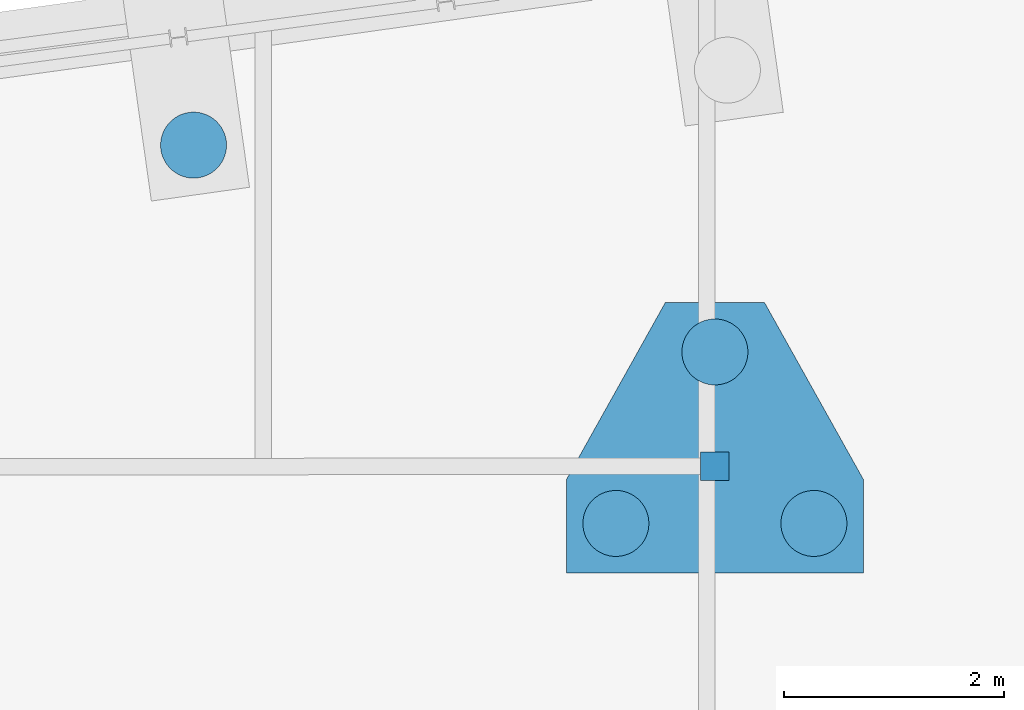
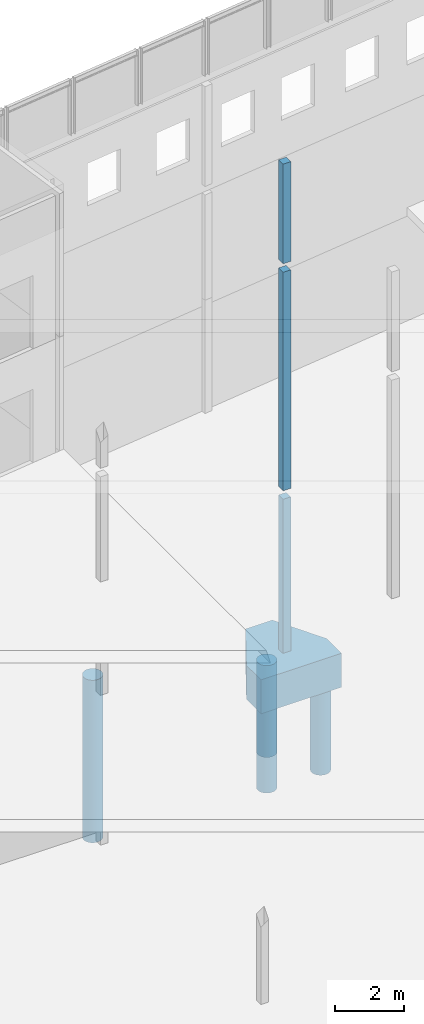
# One storey, part 27 of 82: 8 columns.
"""IFC2X3 building model written with IfcOpenShell, lengths in millimetres."""

from ifc_helpers import new_model, si_unit, frame, frame_2d, origin_with_axes, place, context, subcontext, project, spatial, polyline, rectangle, circle, outline, extrude, material, type_object, element, save


model = new_model("IFC2X3")

# Units and contexts
model_context = context("Model", 3, precision=1e-05, world=origin_with_axes())
body_context = subcontext(model_context, "Body", "Model", "MODEL_VIEW")
ifc_project = project(units=[si_unit("LENGTHUNIT", "METRE", prefix="MILLI"), si_unit("AREAUNIT", "SQUARE_METRE"), si_unit("VOLUMEUNIT", "CUBIC_METRE"), si_unit("MASSUNIT", "GRAM", prefix="KILO"), si_unit("TIMEUNIT", "SECOND"), si_unit("PLANEANGLEUNIT", "RADIAN"), si_unit("SOLIDANGLEUNIT", "STERADIAN"), si_unit("THERMODYNAMICTEMPERATUREUNIT", "DEGREE_CELSIUS"), si_unit("LUMINOUSINTENSITYUNIT", "LUMEN")], contexts=[model_context])

# Site, building, storey
site_placement = place(None, origin_with_axes())
site = spatial("IfcSite", under=ifc_project, at=site_placement, Name="Undefined", CompositionType="ELEMENT")
building_placement = place(site_placement, origin_with_axes())
building = spatial("IfcBuilding", under=site, at=building_placement, Name="Undefined", CompositionType="ELEMENT")
storey_placement = place(building_placement, origin_with_axes())
storey = spatial("IfcBuildingStorey", under=building, at=storey_placement, Name="Undefined", CompositionType="ELEMENT", Elevation=0.0)

# Columns
ifc_material_1 = material(Name="CONCRETE/C25/30")
column_type_1 = type_object("IfcColumnType", Name="260*260", PredefinedType="NOTDEFINED")
column_1_placement = place(storey_placement, frame((19499.9999999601, 24899.9991149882, 13330.0), z_axis=(0.0, 0.0, 1.0), x_axis=(1.0, 0.0, 0.0)))
element("IfcColumn", 1, at=column_1_placement, inside=storey, type_object=column_type_1, material=ifc_material_1, Name="POTEAU", ObjectType="260*260", context=body_context, shape_type="SweptSolid", body=[
    extrude(rectangle(XDim=260.0, YDim=260.0, at=frame_2d((5.17284206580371e-08, 4.49290382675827e-10), x_axis=(1.0, 0.0))), frame((0.0, 0.0, 3529.99999999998), z_axis=(0.0, -6.50000002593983e-08, -0.999999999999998), x_axis=(-1.0, 0.0, 0.0)), (0.0, 0.0, 1.0), 3530.0),
])
column_2_placement = place(storey_placement, frame((19499.9999999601, 24899.999999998, 5300.0), z_axis=(0.0, 0.0, 1.0), x_axis=(1.0, 0.0, 0.0)))
element("IfcColumn", 2, at=column_2_placement, inside=storey, type_object=column_type_1, material=ifc_material_1, Name="POTEAU", ObjectType="260*260", context=body_context, shape_type="SweptSolid", body=[
    extrude(rectangle(XDim=260.0, YDim=260.0, at=frame_2d((5.17284206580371e-08, 4.49290382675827e-10), x_axis=(1.0, 0.0))), frame((0.0, -0.00088121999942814, 7730.0), z_axis=(0.0, -6.50000002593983e-08, -0.999999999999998), x_axis=(-1.0, 0.0, 0.0)), (0.0, 0.0, 1.0), 7730.0),
])
column_3_placement = place(storey_placement, frame((19499.9999999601, 24899.9991149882, -449.999511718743), z_axis=(0.0, 0.0, 1.0), x_axis=(1.0, 0.0, 0.0)))
element("IfcColumn", 3, at=column_3_placement, inside=storey, type_object=column_type_1, material=ifc_material_1, Name="POTEAU", ObjectType="260*260", context=body_context, shape_type="SweptSolid", body=[
    extrude(rectangle(XDim=260.0, YDim=260.0, at=frame_2d((5.17284206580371e-08, 4.49290382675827e-10), x_axis=(1.0, 0.0))), frame((0.0, 0.0, 5449.9995117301), z_axis=(0.0, -6.50000002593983e-08, -0.999999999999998), x_axis=(-1.0, 0.0, 0.0)), (0.0, 0.0, 1.0), 5450.0),
])
ifc_material_2 = material(Name="CONCRETE/C30/37")
column_type_2 = type_object("IfcColumnType", Name="1200*2460", PredefinedType="NOTDEFINED")
column_4_placement = place(storey_placement, frame((19049.9997110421, 26390.0000002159, -1050.00146572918), z_axis=(0.0, 0.0, 1.0), x_axis=(-0.487942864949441, -0.872875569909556, 0.0)))
element("IfcColumn", 4, at=column_4_placement, inside=storey, type_object=column_type_2, material=ifc_material_2, Name="SEMELLE", ObjectType="1200*2460", context=body_context, shape_type="SweptSolid", body=[
    extrude(outline(polyline([(5.17284206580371e-08, 4.49290382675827e-10), (1844.47827153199, -8.99672158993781e-09), (2586.42260747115, 414.751434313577), (1268.97668460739, 2771.51538083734), (527.032531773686, 2356.76416013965), (-439.148559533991, 785.588012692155), (5.17284206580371e-08, 4.49290382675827e-10)])), frame((0.0, 0.0, -600.0), z_axis=(0.0, 0.0, 1.0), x_axis=(1.0, 0.0, 0.0)), (0.0, 0.0, 1.0), 1200.0),
])
column_type_3 = type_object("IfcColumnType", Name="D600", PredefinedType="NOTDEFINED")
column_5_placement = place(storey_placement, frame((14761.1235907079, 27819.0702881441, -7175.0), z_axis=(0.0, 0.0, 1.0), x_axis=(1.0, 0.0, 0.0)))
element("IfcColumn", 5, at=column_5_placement, inside=storey, type_object=column_type_3, material=ifc_material_1, Name="PIEU", ObjectType="D600", context=body_context, shape_type="SweptSolid", body=[
    extrude(circle(Radius=300.0, at=frame_2d((5.17284206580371e-08, 4.49290382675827e-10), x_axis=(1.0, 0.0))), frame((0.0, 0.0, 5750.0), z_axis=(0.0, -6.50000002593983e-08, -0.999999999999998), x_axis=(0.991215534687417, 0.132256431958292, 0.0)), (0.0, 0.0, 1.0), 5750.0),
])
for number, where, z_axis, x_axis in (
    (6, (20399.999999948, 24380.3999999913, -4675.0), (0.0, 0.0, 1.0), (1.0, 0.0, 0.0)),
    (7, (18599.9999999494, 24380.3999999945, -4675.0), (0.0, 0.0, 1.0), (1.0, 0.0, 0.0)),
    (8, (19499.9999999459, 25939.199999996, -4675.0), (0.0, 0.0, 1.0), (1.0, 0.0, 0.0)),
):
    element("IfcColumn", number, at=place(storey_placement, frame(where, z_axis=z_axis, x_axis=x_axis)), inside=storey, type_object=column_type_3, material=ifc_material_1, Name="PIEU", ObjectType="D600", context=body_context, shape_type="SweptSolid", body=[
        extrude(circle(Radius=300.0, at=frame_2d((5.17284206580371e-08, 4.49290382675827e-10), x_axis=(1.0, 0.0))), frame((0.0, 0.0, 3250.0), z_axis=(0.0, -6.50000002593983e-08, -0.999999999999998), x_axis=(-1.0, 0.0, 0.0)), (0.0, 0.0, 1.0), 3250.0),
    ])

save(model, "model.ifc")
